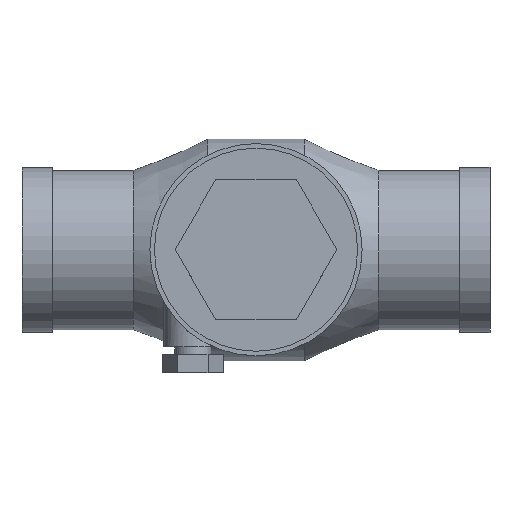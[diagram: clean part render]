
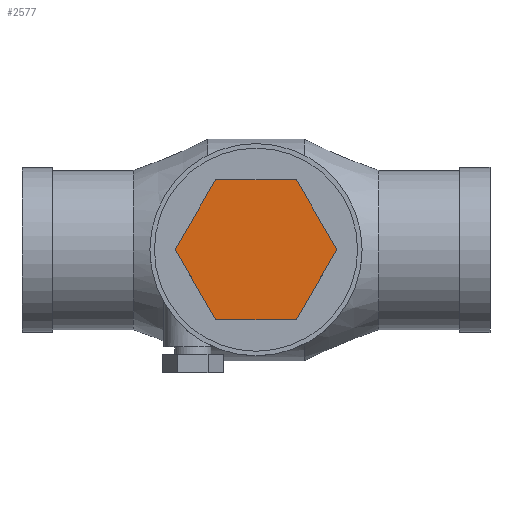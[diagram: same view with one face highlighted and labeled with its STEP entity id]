
A CAD part, top view. The second image highlights one B-rep face of the part: STEP entity #2577.
In plain terms, the highlighted planar face has unit normal (0, 0, 1).
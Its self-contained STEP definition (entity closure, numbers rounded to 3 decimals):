
#1702 = PLANE('',#1703);
#1703 = AXIS2_PLACEMENT_3D('',#1704,#1705,#1706);
#1704 = CARTESIAN_POINT('',(1.555,-0.465,1.353));
#1705 = DIRECTION('',(0.,-1.,0.));
#1706 = DIRECTION('',(1.,0.,0.));
#1730 = PLANE('',#1731);
#1731 = AXIS2_PLACEMENT_3D('',#1732,#1733,#1734);
#1732 = CARTESIAN_POINT('',(1.152,-0.233,1.353));
#1733 = DIRECTION('',(-0.866,-0.5,0.));
#1734 = DIRECTION('',(0.5,-0.866,0.));
#1758 = PLANE('',#1759);
#1759 = AXIS2_PLACEMENT_3D('',#1760,#1761,#1762);
#1760 = CARTESIAN_POINT('',(1.152,0.233,1.353));
#1761 = DIRECTION('',(-0.866,0.5,0.));
#1762 = DIRECTION('',(-0.5,-0.866,0.));
#1786 = PLANE('',#1787);
#1787 = AXIS2_PLACEMENT_3D('',#1788,#1789,#1790);
#1788 = CARTESIAN_POINT('',(1.555,0.465,1.353));
#1789 = DIRECTION('',(0.,1.,0.));
#1790 = DIRECTION('',(-1.,0.,0.));
#1814 = PLANE('',#1815);
#1815 = AXIS2_PLACEMENT_3D('',#1816,#1817,#1818);
#1816 = CARTESIAN_POINT('',(1.958,0.233,1.353));
#1817 = DIRECTION('',(0.866,0.5,0.));
#1818 = DIRECTION('',(-0.5,0.866,0.));
#1840 = PLANE('',#1841);
#1841 = AXIS2_PLACEMENT_3D('',#1842,#1843,#1844);
#1842 = CARTESIAN_POINT('',(1.958,-0.233,1.353));
#1843 = DIRECTION('',(0.866,-0.5,0.));
#1844 = DIRECTION('',(0.5,0.866,0.));
#2282 = EDGE_CURVE('',#2283,#2285,#2287,.T.);
#2283 = VERTEX_POINT('',#2284);
#2284 = CARTESIAN_POINT('',(1.823,-0.465,1.62));
#2285 = VERTEX_POINT('',#2286);
#2286 = CARTESIAN_POINT('',(1.287,-0.465,1.62));
#2287 = SURFACE_CURVE('',#2288,(#2292,#2299),.PCURVE_S1.);
#2288 = LINE('',#2289,#2290);
#2289 = CARTESIAN_POINT('',(1.287,-0.465,1.62));
#2290 = VECTOR('',#2291,1.);
#2291 = DIRECTION('',(-1.,0.,0.));
#2292 = PCURVE('',#1702,#2293);
#2293 = DEFINITIONAL_REPRESENTATION('',(#2294),#2298);
#2294 = LINE('',#2295,#2296);
#2295 = CARTESIAN_POINT('',(-0.268,0.267));
#2296 = VECTOR('',#2297,1.);
#2297 = DIRECTION('',(-1.,0.));
#2298 = ( GEOMETRIC_REPRESENTATION_CONTEXT(2) 
PARAMETRIC_REPRESENTATION_CONTEXT() REPRESENTATION_CONTEXT('2D SPACE',''
  ) );
#2299 = PCURVE('',#2300,#2305);
#2300 = PLANE('',#2301);
#2301 = AXIS2_PLACEMENT_3D('',#2302,#2303,#2304);
#2302 = CARTESIAN_POINT('',(1.555,0.,1.62));
#2303 = DIRECTION('',(0.,0.,1.));
#2304 = DIRECTION('',(1.,0.,-0.));
#2305 = DEFINITIONAL_REPRESENTATION('',(#2306),#2310);
#2306 = LINE('',#2307,#2308);
#2307 = CARTESIAN_POINT('',(-0.268,-0.465));
#2308 = VECTOR('',#2309,1.);
#2309 = DIRECTION('',(-1.,0.));
#2310 = ( GEOMETRIC_REPRESENTATION_CONTEXT(2) 
PARAMETRIC_REPRESENTATION_CONTEXT() REPRESENTATION_CONTEXT('2D SPACE',''
  ) );
#2358 = EDGE_CURVE('',#2285,#2359,#2361,.T.);
#2359 = VERTEX_POINT('',#2360);
#2360 = CARTESIAN_POINT('',(1.018,0.,1.62));
#2361 = SURFACE_CURVE('',#2362,(#2366,#2373),.PCURVE_S1.);
#2362 = LINE('',#2363,#2364);
#2363 = CARTESIAN_POINT('',(1.018,0.,1.62));
#2364 = VECTOR('',#2365,1.);
#2365 = DIRECTION('',(-0.5,0.866,0.));
#2366 = PCURVE('',#1730,#2367);
#2367 = DEFINITIONAL_REPRESENTATION('',(#2368),#2372);
#2368 = LINE('',#2369,#2370);
#2369 = CARTESIAN_POINT('',(-0.268,0.267));
#2370 = VECTOR('',#2371,1.);
#2371 = DIRECTION('',(-1.,0.));
#2372 = ( GEOMETRIC_REPRESENTATION_CONTEXT(2) 
PARAMETRIC_REPRESENTATION_CONTEXT() REPRESENTATION_CONTEXT('2D SPACE',''
  ) );
#2373 = PCURVE('',#2300,#2374);
#2374 = DEFINITIONAL_REPRESENTATION('',(#2375),#2379);
#2375 = LINE('',#2376,#2377);
#2376 = CARTESIAN_POINT('',(-0.537,0.));
#2377 = VECTOR('',#2378,1.);
#2378 = DIRECTION('',(-0.5,0.866));
#2379 = ( GEOMETRIC_REPRESENTATION_CONTEXT(2) 
PARAMETRIC_REPRESENTATION_CONTEXT() REPRESENTATION_CONTEXT('2D SPACE',''
  ) );
#2407 = EDGE_CURVE('',#2359,#2408,#2410,.T.);
#2408 = VERTEX_POINT('',#2409);
#2409 = CARTESIAN_POINT('',(1.287,0.465,1.62));
#2410 = SURFACE_CURVE('',#2411,(#2415,#2422),.PCURVE_S1.);
#2411 = LINE('',#2412,#2413);
#2412 = CARTESIAN_POINT('',(1.287,0.465,1.62));
#2413 = VECTOR('',#2414,1.);
#2414 = DIRECTION('',(0.5,0.866,0.));
#2415 = PCURVE('',#1758,#2416);
#2416 = DEFINITIONAL_REPRESENTATION('',(#2417),#2421);
#2417 = LINE('',#2418,#2419);
#2418 = CARTESIAN_POINT('',(-0.268,0.267));
#2419 = VECTOR('',#2420,1.);
#2420 = DIRECTION('',(-1.,0.));
#2421 = ( GEOMETRIC_REPRESENTATION_CONTEXT(2) 
PARAMETRIC_REPRESENTATION_CONTEXT() REPRESENTATION_CONTEXT('2D SPACE',''
  ) );
#2422 = PCURVE('',#2300,#2423);
#2423 = DEFINITIONAL_REPRESENTATION('',(#2424),#2428);
#2424 = LINE('',#2425,#2426);
#2425 = CARTESIAN_POINT('',(-0.268,0.465));
#2426 = VECTOR('',#2427,1.);
#2427 = DIRECTION('',(0.5,0.866));
#2428 = ( GEOMETRIC_REPRESENTATION_CONTEXT(2) 
PARAMETRIC_REPRESENTATION_CONTEXT() REPRESENTATION_CONTEXT('2D SPACE',''
  ) );
#2456 = EDGE_CURVE('',#2408,#2457,#2459,.T.);
#2457 = VERTEX_POINT('',#2458);
#2458 = CARTESIAN_POINT('',(1.823,0.465,1.62));
#2459 = SURFACE_CURVE('',#2460,(#2464,#2471),.PCURVE_S1.);
#2460 = LINE('',#2461,#2462);
#2461 = CARTESIAN_POINT('',(1.823,0.465,1.62));
#2462 = VECTOR('',#2463,1.);
#2463 = DIRECTION('',(1.,0.,0.));
#2464 = PCURVE('',#1786,#2465);
#2465 = DEFINITIONAL_REPRESENTATION('',(#2466),#2470);
#2466 = LINE('',#2467,#2468);
#2467 = CARTESIAN_POINT('',(-0.268,0.267));
#2468 = VECTOR('',#2469,1.);
#2469 = DIRECTION('',(-1.,0.));
#2470 = ( GEOMETRIC_REPRESENTATION_CONTEXT(2) 
PARAMETRIC_REPRESENTATION_CONTEXT() REPRESENTATION_CONTEXT('2D SPACE',''
  ) );
#2471 = PCURVE('',#2300,#2472);
#2472 = DEFINITIONAL_REPRESENTATION('',(#2473),#2477);
#2473 = LINE('',#2474,#2475);
#2474 = CARTESIAN_POINT('',(0.268,0.465));
#2475 = VECTOR('',#2476,1.);
#2476 = DIRECTION('',(1.,0.));
#2477 = ( GEOMETRIC_REPRESENTATION_CONTEXT(2) 
PARAMETRIC_REPRESENTATION_CONTEXT() REPRESENTATION_CONTEXT('2D SPACE',''
  ) );
#2505 = EDGE_CURVE('',#2457,#2506,#2508,.T.);
#2506 = VERTEX_POINT('',#2507);
#2507 = CARTESIAN_POINT('',(2.092,0.,1.62));
#2508 = SURFACE_CURVE('',#2509,(#2513,#2520),.PCURVE_S1.);
#2509 = LINE('',#2510,#2511);
#2510 = CARTESIAN_POINT('',(2.092,0.,1.62));
#2511 = VECTOR('',#2512,1.);
#2512 = DIRECTION('',(0.5,-0.866,0.));
#2513 = PCURVE('',#1814,#2514);
#2514 = DEFINITIONAL_REPRESENTATION('',(#2515),#2519);
#2515 = LINE('',#2516,#2517);
#2516 = CARTESIAN_POINT('',(-0.268,0.267));
#2517 = VECTOR('',#2518,1.);
#2518 = DIRECTION('',(-1.,0.));
#2519 = ( GEOMETRIC_REPRESENTATION_CONTEXT(2) 
PARAMETRIC_REPRESENTATION_CONTEXT() REPRESENTATION_CONTEXT('2D SPACE',''
  ) );
#2520 = PCURVE('',#2300,#2521);
#2521 = DEFINITIONAL_REPRESENTATION('',(#2522),#2526);
#2522 = LINE('',#2523,#2524);
#2523 = CARTESIAN_POINT('',(0.537,0.));
#2524 = VECTOR('',#2525,1.);
#2525 = DIRECTION('',(0.5,-0.866));
#2526 = ( GEOMETRIC_REPRESENTATION_CONTEXT(2) 
PARAMETRIC_REPRESENTATION_CONTEXT() REPRESENTATION_CONTEXT('2D SPACE',''
  ) );
#2554 = EDGE_CURVE('',#2506,#2283,#2555,.T.);
#2555 = SURFACE_CURVE('',#2556,(#2560,#2567),.PCURVE_S1.);
#2556 = LINE('',#2557,#2558);
#2557 = CARTESIAN_POINT('',(1.823,-0.465,1.62));
#2558 = VECTOR('',#2559,1.);
#2559 = DIRECTION('',(-0.5,-0.866,0.));
#2560 = PCURVE('',#1840,#2561);
#2561 = DEFINITIONAL_REPRESENTATION('',(#2562),#2566);
#2562 = LINE('',#2563,#2564);
#2563 = CARTESIAN_POINT('',(-0.268,0.267));
#2564 = VECTOR('',#2565,1.);
#2565 = DIRECTION('',(-1.,0.));
#2566 = ( GEOMETRIC_REPRESENTATION_CONTEXT(2) 
PARAMETRIC_REPRESENTATION_CONTEXT() REPRESENTATION_CONTEXT('2D SPACE',''
  ) );
#2567 = PCURVE('',#2300,#2568);
#2568 = DEFINITIONAL_REPRESENTATION('',(#2569),#2573);
#2569 = LINE('',#2570,#2571);
#2570 = CARTESIAN_POINT('',(0.268,-0.465));
#2571 = VECTOR('',#2572,1.);
#2572 = DIRECTION('',(-0.5,-0.866));
#2573 = ( GEOMETRIC_REPRESENTATION_CONTEXT(2) 
PARAMETRIC_REPRESENTATION_CONTEXT() REPRESENTATION_CONTEXT('2D SPACE',''
  ) );
#2577 = ADVANCED_FACE('',(#2578),#2300,.T.);
#2578 = FACE_BOUND('',#2579,.T.);
#2579 = EDGE_LOOP('',(#2580,#2581,#2582,#2583,#2584,#2585));
#2580 = ORIENTED_EDGE('',*,*,#2282,.F.);
#2581 = ORIENTED_EDGE('',*,*,#2554,.F.);
#2582 = ORIENTED_EDGE('',*,*,#2505,.F.);
#2583 = ORIENTED_EDGE('',*,*,#2456,.F.);
#2584 = ORIENTED_EDGE('',*,*,#2407,.F.);
#2585 = ORIENTED_EDGE('',*,*,#2358,.F.);
